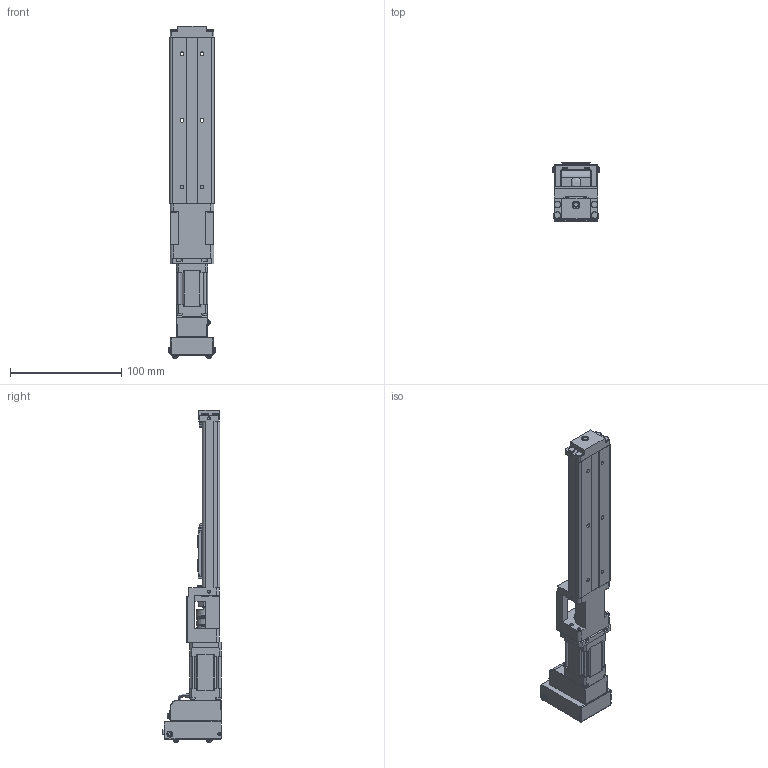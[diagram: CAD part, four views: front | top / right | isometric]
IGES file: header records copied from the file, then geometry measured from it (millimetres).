
Start section: SolidWorks IGES file using analytic representation for surfaces
Global section: file name: \\MYODRIVE\Public\CAD Files\Integrated-Actuators\SPA-Series\SPA-20\SPA20-A-01-080-S-00A0-11L30.IGS; native system: SolidWorks 2015; preprocessor: SolidWorks 2015; author: RENDER; date: 150106.125116; units: millimetre
Bounding box: 43.2 x 52.3 x 298.9 mm (x, y, z)
Surface area: 85172.9 mm2 (no closed solid volume)
Topology: 0 solids, 0 shells, 1795 faces, 20324 edges, 20295 vertices
Faces by surface type: bspline 1146, revolution 649
